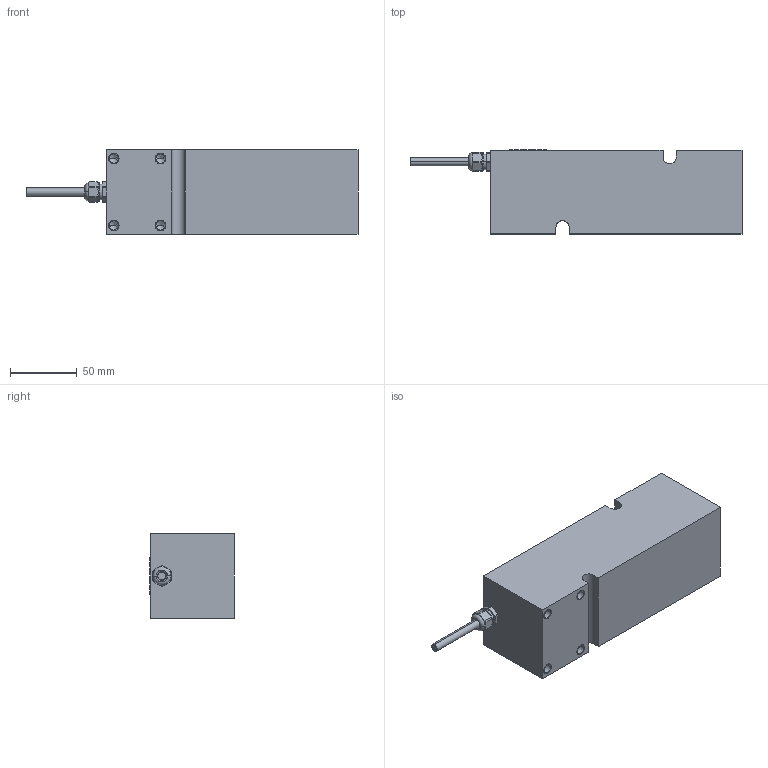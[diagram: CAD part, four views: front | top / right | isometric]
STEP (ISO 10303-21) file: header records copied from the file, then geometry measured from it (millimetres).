
FILE_DESCRIPTION((''),'2;1');
FILE_NAME('D000711414_ASM','2022-04-19T17:15:39',('wang-379'),(''),'CREO PARAMETRIC BY PTC INC, 2018260','CREO PARAMETRIC BY PTC INC, 2018260','');
FILE_SCHEMA(('CONFIG_CONTROL_DESIGN'));
Length unit declared in the file: millimetre
Products named in the file (4): D000512897; D000498808; ME-42111360; D000711414_ASM
Assembly tree (3 placements, depth 2):
  D000711414_ASM
    D000512897
    D000498808
    ME-42111360
Bounding box: 248 x 62.8 x 63 mm (x, y, z)
Volume: 718450.1 mm3; surface area: 70563.3 mm2
Topology: 3 solids, 12 shells, 157 faces, 390 edges, 246 vertices
Faces by surface type: cylinder 63, plane 57, cone 33, torus 4
Entity records: 4853 total; most frequent: CARTESIAN_POINT 1004, DIRECTION 846, ORIENTED_EDGE 712, EDGE_CURVE 374, AXIS2_PLACEMENT_3D 337, VERTEX_POINT 246, EDGE_LOOP 182, VECTOR 172
